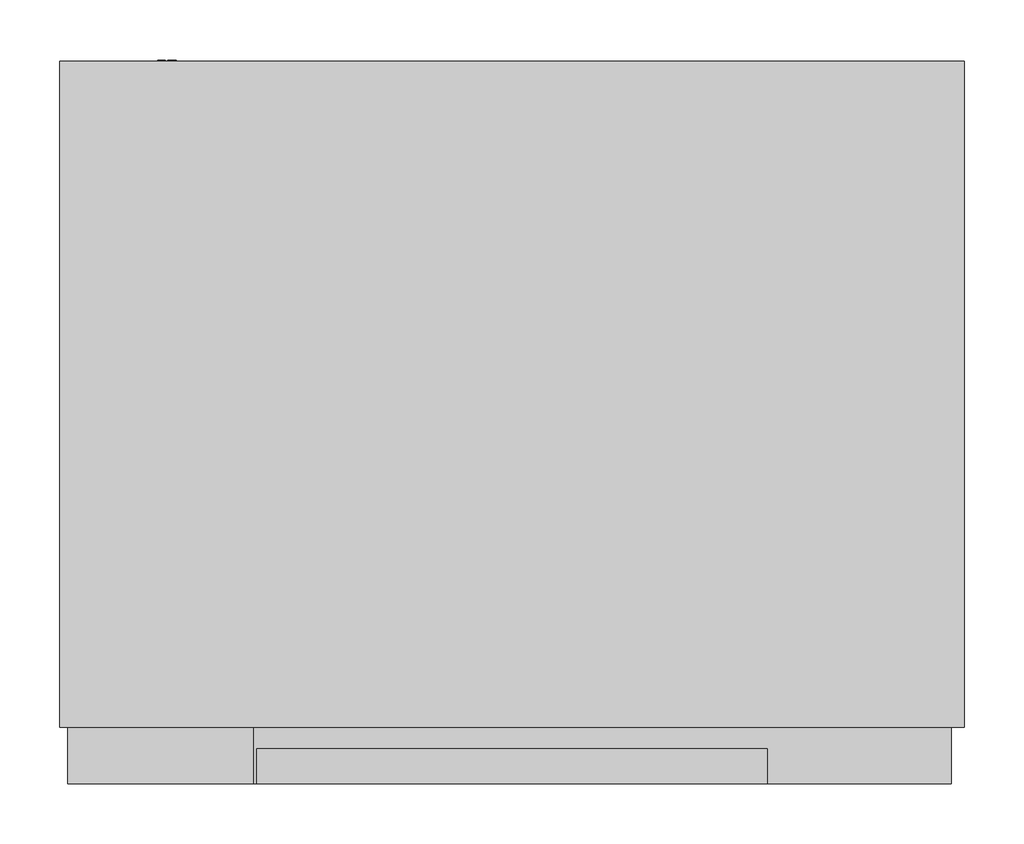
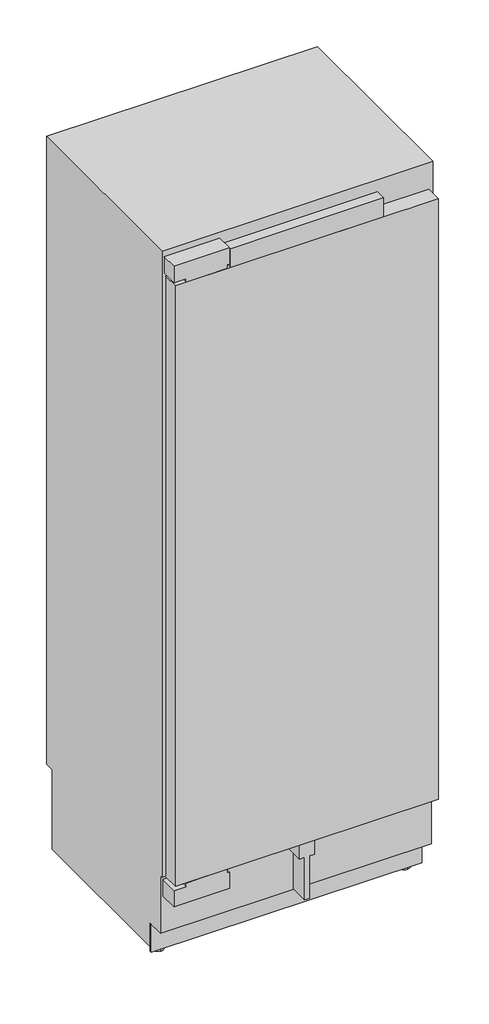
# Not in any storey: 1 proxy.
"""IFC4 building model written with IfcOpenShell, lengths in millimetres."""

import ifcopenshell
import ifcopenshell.guid

model = None  # the IFC model being written
_history = None  # IfcOwnerHistory: only IFC2X3 demands one
_inside = {}  # id of a spatial element -> (the spatial element, [elements in it])
_under = {}  # id of a project, library or spatial element -> (it, [spatial elements below it])
_declared = {}  # id of a project -> (the project, [libraries it declares])
_typed = {}  # id of a type object -> (the type object, [elements of that type])
_made_of = {}  # id of a material, layer set ... -> (it, [elements and type objects made of it])


def new_model(schema):
    """Start an empty IFC model of exactly this schema.

    Asked for "IFC4X3", IfcOpenShell would pick the latest addendum, in which some entities
    have other attributes; the version numbers below select the first issue.
    IFC2X3 requires an IfcOwnerHistory on every rooted entity: one is made here for all.
    """
    global model, _history
    if schema == "IFC4X3":
        model = ifcopenshell.file(schema_version=(4, 3, 0, 0))
    else:
        model = ifcopenshell.file(schema=schema)
    _inside.clear()
    _under.clear()
    _declared.clear()
    _typed.clear()
    _made_of.clear()
    _history = None
    if model.schema == "IFC2X3":
        org = make("IfcOrganization", Name="unknown")
        user = make(
            "IfcPersonAndOrganization",
            ThePerson=make("IfcPerson", FamilyName="unknown"),
            TheOrganization=org,
        )
        app = make(
            "IfcApplication",
            ApplicationDeveloper=org,
            Version="unknown",
            ApplicationFullName="unknown",
            ApplicationIdentifier="unknown",
        )
        _history = make(
            "IfcOwnerHistory",
            OwningUser=user,
            OwningApplication=app,
            ChangeAction="ADDED",
            CreationDate=0,
        )
    return model


def make(cls, **values):
    """One entity of the class cls with the attributes given. An attribute that is None is left unset."""
    return model.create_entity(
        cls, **{name: value for name, value in values.items() if value is not None}
    )


def rooted(cls, **values):
    """An entity with a GlobalId (a new one), such as an element, a storey or a relation."""
    return make(cls, GlobalId=ifcopenshell.guid.new(), OwnerHistory=_history, **values)


def si_unit(unit_type, name, prefix=None):
    """IfcSIUnit, for example si_unit("LENGTHUNIT", "METRE", prefix="MILLI")."""
    return make("IfcSIUnit", UnitType=unit_type, Prefix=prefix, Name=name)


def assignment(units):
    """IfcUnitAssignment: the units of a project."""
    return None if units is None else make("IfcUnitAssignment", Units=units)


def point(xyz):
    """IfcCartesianPoint."""
    return None if xyz is None else make("IfcCartesianPoint", Coordinates=xyz)


def direction(xyz):
    """IfcDirection."""
    return None if xyz is None else make("IfcDirection", DirectionRatios=xyz)


def frame(location, z_axis=None, x_axis=None):
    """IfcAxis2Placement3D, a coordinate frame: its origin and axes. An axis left out is left unset."""
    return make(
        "IfcAxis2Placement3D",
        Location=point(location),
        Axis=direction(z_axis),
        RefDirection=direction(x_axis),
    )


def frame_2d(location, x_axis=None):
    """IfcAxis2Placement2D, a coordinate frame in the plane: its origin and x axis."""
    return make(
        "IfcAxis2Placement2D", Location=point(location), RefDirection=direction(x_axis)
    )


def origin():
    """The frame at (0, 0, 0) with its axes left unset."""
    return frame((0.0, 0.0, 0.0))


def place(relative_to, where):
    """IfcLocalPlacement: puts the frame where relative to a parent placement (None: the world)."""
    return make(
        "IfcLocalPlacement", PlacementRelTo=relative_to, RelativePlacement=where
    )


def context(
    kind, dimensions, precision=None, world=None, true_north=None, identifier=None
):
    """IfcGeometricRepresentationContext, for example the 3D "Model" context."""
    return make(
        "IfcGeometricRepresentationContext",
        ContextIdentifier=identifier,
        ContextType=kind,
        CoordinateSpaceDimension=dimensions,
        Precision=precision,
        WorldCoordinateSystem=world,
        TrueNorth=true_north,
    )


def project(units=None, contexts=None):
    """IfcProject with its units and contexts."""
    return rooted(
        "IfcProject",
        Name="project",
        RepresentationContexts=contexts,
        UnitsInContext=assignment(units),
    )


def spatial(cls, under=None, at=None, **own):
    """A site, building, storey or space (cls), placed at a placement, below another one or the project."""
    s = rooted(cls, ObjectPlacement=at, **own)
    if under is not None:
        _under.setdefault(under.id(), (under, []))[1].append(s)
    return s


def polyline(points):
    """IfcPolyline through the points."""
    return make("IfcPolyline", Points=[point(p) for p in points])


def circle_curve(where, radius):
    """IfcCircle in the frame where."""
    return make("IfcCircle", Position=where, Radius=radius)


def trimmed(basis, trim1, trim2, sense, master):
    """IfcTrimmedCurve: the piece of a basis curve between two trims."""
    return make(
        "IfcTrimmedCurve",
        BasisCurve=basis,
        Trim1=trim1,
        Trim2=trim2,
        SenseAgreement=sense,
        MasterRepresentation=master,
    )


def segment(curve, same_sense, transition):
    """IfcCompositeCurveSegment."""
    return make(
        "IfcCompositeCurveSegment",
        Transition=transition,
        SameSense=same_sense,
        ParentCurve=curve,
    )


def composite_curve(segments, self_intersect=None):
    """IfcCompositeCurve: segments joined end to end."""
    return make("IfcCompositeCurve", Segments=segments, SelfIntersect=self_intersect)


def outline(outer, holes=None, kind="AREA"):
    """IfcArbitraryClosedProfileDef: a profile drawn as a closed curve; with holes, ...WithVoids."""
    if holes is None:
        return make("IfcArbitraryClosedProfileDef", ProfileType=kind, OuterCurve=outer)
    return make(
        "IfcArbitraryProfileDefWithVoids",
        ProfileType=kind,
        OuterCurve=outer,
        InnerCurves=holes,
    )


def extrude(swept, where, along, depth):
    """IfcExtrudedAreaSolid: the profile swept, set in the frame where, extruded along a direction by depth."""
    return make(
        "IfcExtrudedAreaSolid",
        SweptArea=swept,
        Position=where,
        ExtrudedDirection=direction(along),
        Depth=depth,
    )


def shape(context_of_items, identifier, shape_type, items):
    """IfcShapeRepresentation: the items that make up one representation, for example the "Body"."""
    return make(
        "IfcShapeRepresentation",
        ContextOfItems=context_of_items,
        RepresentationIdentifier=identifier,
        RepresentationType=shape_type,
        Items=items,
    )


def source(mapping_origin, context_of_items, identifier, shape_type, items):
    """IfcRepresentationMap: a shape defined once, which mapped items show again and again."""
    return make(
        "IfcRepresentationMap",
        MappingOrigin=mapping_origin,
        MappedRepresentation=shape(context_of_items, identifier, shape_type, items),
    )


def transform(
    local_origin,
    x_axis=None,
    y_axis=None,
    z_axis=None,
    scale=None,
    scale2=None,
    scale3=None,
    uniform=True,
):
    """IfcCartesianTransformationOperator3D, or its non-uniform kind. x_axis, y_axis, z_axis: its Axis1, 2, 3."""
    if uniform:
        return make(
            "IfcCartesianTransformationOperator3D",
            Axis1=direction(x_axis),
            Axis2=direction(y_axis),
            LocalOrigin=point(local_origin),
            Scale=scale,
            Axis3=direction(z_axis),
        )
    return make(
        "IfcCartesianTransformationOperator3DnonUniform",
        Axis1=direction(x_axis),
        Axis2=direction(y_axis),
        LocalOrigin=point(local_origin),
        Scale=scale,
        Axis3=direction(z_axis),
        Scale2=scale2,
        Scale3=scale3,
    )


def mapped(mapping_source, mapping_target):
    """IfcMappedItem: shows the shape of a source again, moved by a transform."""
    return make(
        "IfcMappedItem", MappingSource=mapping_source, MappingTarget=mapping_target
    )


def made_of(thing, what):
    """Note that an element or type object is made of a material, layer set ...; save() writes the relation."""
    if what is not None:
        _made_of.setdefault(what.id(), (what, []))[1].append(thing)
    return thing


def element(
    cls,
    number,
    at=None,
    inside=None,
    cuts=None,
    type_object=None,
    material=None,
    context=None,
    identifier="Body",
    shape_type=None,
    held_by="IfcProductDefinitionShape",
    body=None,
    shapes=None,
    **own,
):
    """One element of the class cls, such as IfcWall. Its Tag is "e" and its number.

    at: its placement. inside: the storey or other place that contains it. cuts: it is an
    opening in that element (IfcRelVoidsElement). A single representation is given by context,
    identifier, shape_type and body (its items); several are given by shapes. held_by: the class
    of the entity that holds the representations. save() writes the other relations.
    """
    e = rooted(cls, Tag="e%d" % number, ObjectPlacement=at, **own)
    if body is not None:
        shapes = [shape(context, identifier, shape_type, body)]
    if shapes is not None:
        e.Representation = make(held_by, Representations=shapes)
    if inside is not None:
        _inside.setdefault(inside.id(), (inside, []))[1].append(e)
    if cuts is not None:
        rooted(
            "IfcRelVoidsElement", RelatingBuildingElement=cuts, RelatedOpeningElement=e
        )
    if type_object is not None:
        _typed.setdefault(type_object.id(), (type_object, []))[1].append(e)
    return made_of(e, material)


def aggregate(whole, parts):
    """IfcRelAggregates: a whole, such as a stair, and the parts it consists of."""
    return rooted("IfcRelAggregates", RelatingObject=whole, RelatedObjects=parts)


def save(model, path):
    """Write the relations noted so far, then the file.

    IfcRelAggregates (storeys below a building ...), IfcRelContainedInSpatialStructure (elements
    in a storey), IfcRelDefinesByType, IfcRelAssociatesMaterial and IfcRelDeclares: one each for
    every whole, place, type object, material and project.
    """
    for whole, parts in _under.values():
        aggregate(whole, parts)
    for where, things in _inside.values():
        rooted(
            "IfcRelContainedInSpatialStructure",
            RelatedElements=things,
            RelatingStructure=where,
        )
    for kind, things in _typed.values():
        rooted("IfcRelDefinesByType", RelatedObjects=things, RelatingType=kind)
    for what, things in _made_of.values():
        rooted("IfcRelAssociatesMaterial", RelatedObjects=things, RelatingMaterial=what)
    for by, libraries in _declared.values():
        rooted("IfcRelDeclares", RelatingContext=by, RelatedDefinitions=libraries)
    model.write(path)


def plane_surface(at):
    """IfcPlane: the flat surface through the origin of the frame at, square to its z axis."""
    return make("IfcPlane", Position=at)


def cylinder_surface(at, radius):
    """IfcCylindricalSurface: all points at the distance radius from the z axis of the frame at."""
    return make("IfcCylindricalSurface", Position=at, Radius=radius)


def advanced_brep(points, edges, surfaces, faces):
    """IfcAdvancedBrep: a solid bounded by faces that lie on surfaces and meet in shared edges.

    An edge is (start, end): straight between two places in points (the first is 0);
    or (start, end, curve); or (start, end, curve, False) where it runs against its curve.
    A face is (place in surfaces, loops), or (place, loops, False) where it looks against
    its surface's normal. A loop lists edges by number (the first is 1), with a minus sign
    where the edge is run from its end to its start. The first loop is the outer one.
    """
    corners = [point(p) for p in points]
    vertices = [make("IfcVertexPoint", VertexGeometry=c) for c in corners]
    made = []
    for start, end, *more in edges:
        made.append(
            make(
                "IfcEdgeCurve",
                EdgeStart=vertices[start],
                EdgeEnd=vertices[end],
                EdgeGeometry=more[0] if more else make("IfcPolyline", Points=[corners[start], corners[end]]),
                SameSense=more[1] if len(more) > 1 else True,
            )
        )
    hull = []
    for where, loops, *sense in faces:
        bounds = []
        for j, loop in enumerate(loops):
            ring = [make("IfcOrientedEdge", EdgeElement=made[abs(k) - 1], Orientation=k > 0) for k in loop]
            bounds.append(
                make(
                    "IfcFaceOuterBound" if j == 0 else "IfcFaceBound",
                    Bound=make("IfcEdgeLoop", EdgeList=ring),
                    Orientation=True,
                )
            )
        hull.append(make("IfcAdvancedFace", Bounds=bounds, FaceSurface=surfaces[where], SameSense=sense[0] if sense else True))
    return make("IfcAdvancedBrep", Outer=make("IfcClosedShell", CfsFaces=hull))


def specialty_equipment_694db8ee(model_context):
    return source(origin(), model_context, "Body", "SolidModel", [
        extrude(outline(polyline([(-367.0, 47.0), (367.0, 47.0), (367.0, 0.0), (-367.0, 0.0), (-367.0, 47.0)])), frame((0.0, 0.0, 265.0), z_axis=(0.0, 0.0, 1.0), x_axis=(1.0, 0.0, 0.0)), (0.0, 0.0, 1.0), 1771.0),
        extrude(outline(polyline([(-213.5, 29.0), (213.5, 29.0), (213.5, 0.0), (-213.5, 0.0), (-213.5, 29.0)])), frame((0.0, 0.0, 2036.0), z_axis=(0.0, 0.0, 1.0), x_axis=(1.0, 0.0, 0.0)), (0.0, 0.0, 1.0), 56.0),
        extrude(outline(polyline([(265.0, 21.0), (265.0, 0.0), (265.0, -21.0), (224.0, -21.0), (224.0, -6.5), (99.0, -6.5), (99.0, 0.0), (99.0, 6.5), (224.0, 6.5), (224.0, 21.0), (265.0, 21.0)])), frame((0.0, 0.0, 0.0), z_axis=(0.0, 1.0, 0.0), x_axis=(0.0, 0.0, 1.0)), (0.0, 0.0, 1.0), 54.0),
        extrude(outline(polyline([(87.0, 1998.0), (544.0, 1998.0), (544.0, 1791.0), (475.0, 1791.0), (447.0, 1868.0), (201.3701279, 1868.0), (156.3150905, 1940.0880598), (87.0, 1949.0), (87.0, 1998.0)])), frame((-332.0, 0.0, 0.0), z_axis=(1.0, 0.0, 0.0), x_axis=(0.0, 1.0, 0.0)), (0.0, 0.0, 1.0), 664.0),
        extrude(outline(polyline([(196.9886114, 1875.0), (195.809433, 1875.0), (158.6921935, 1934.4), (159.8713719, 1934.4), (196.9886114, 1875.0)])), frame((-69.0, 0.0, 0.0), z_axis=(1.0, 0.0, 0.0), x_axis=(0.0, 1.0, 0.0)), (0.0, 0.0, 1.0), 138.0),
        extrude(outline(polyline([(2095.0, -371.5), (2047.0, -371.5), (2047.0, -337.5), (2036.5, -337.5), (2036.5, -222.5), (2047.0, -222.5), (2047.0, -216.5), (2095.0, -216.5), (2095.0, -371.5)])), frame((0.0, 0.0, 0.0), z_axis=(0.0, 1.0, 0.0), x_axis=(0.0, 0.0, 1.0)), (0.0, 0.0, 1.0), 47.0),
        extrude(outline(polyline([(254.0, -371.5), (206.0, -371.5), (206.0, -216.5), (254.0, -216.5), (254.0, -222.5), (264.0, -222.5), (264.0, -337.5), (254.0, -337.5), (254.0, -371.5)])), frame((0.0, 0.0, 0.0), z_axis=(0.0, 1.0, 0.0), x_axis=(0.0, 0.0, 1.0)), (0.0, 0.0, 1.0), 54.0),
        extrude(outline(polyline([(99.0373308, -287.7645771), (97.7615342, -287.7645771), (97.7615342, -281.8195541), (94.7968516, -281.8195541), (94.7968516, -287.469579), (93.5246295, -287.469579), (93.5246295, -281.8415693), (90.2570046, -281.8415693), (90.2570046, -287.9619689), (88.9546219, -287.9619689), (88.9546219, -280.5443524), (99.0373308, -280.5443524), (99.0373308, -287.7645771)])), frame((0.0, 604.0, 0.0), z_axis=(0.0, 1.0, 0.0), x_axis=(0.0, 0.0, 1.0)), (0.0, 0.0, 1.0), 1.0),
        extrude(outline(polyline([(99.0458, -291.0619704), (90.2663944, -291.0619704), (90.2663944, -296.1145879), (89.0134802, -296.1145879), (89.0134802, -289.8423809), (99.0458, -289.8423809), (99.0458, -291.0619704)])), frame((0.0, 604.0, 0.0), z_axis=(0.0, 1.0, 0.0), x_axis=(0.0, 0.0, 1.0)), (0.0, 0.0, 1.0), 1.0),
        extrude(outline(composite_curve([segment(trimmed(circle_curve(frame_2d((94.0, -288.0)), 7.5), [point((86.5, -288.0))], [point((101.5, -288.0))], False, "CARTESIAN"), True, "CONTINUOUS"), segment(trimmed(circle_curve(frame_2d((94.0, -288.0)), 7.5), [point((101.5, -288.0))], [point((86.5, -288.0))], False, "CARTESIAN"), True, "CONTINUOUS")], self_intersect=False)), frame((0.0, 577.0, 0.0), z_axis=(0.0, 1.0, 0.0), x_axis=(0.0, 0.0, 1.0)), (0.0, 0.0, 1.0), 27.0),
        extrude(outline(polyline([(-378.0, 104.0), (378.0, 104.0), (378.0, 99.0), (-378.0, 99.0), (-378.0, 104.0)])), frame((0.0, 0.0, 14.0), z_axis=(0.0, 0.0, 1.0), x_axis=(1.0, 0.0, 0.0)), (0.0, 0.0, 1.0), 83.0),
        advanced_brep(
        [(-344.0, 139.0, 0.0), (-344.0, 109.0, 0.0), (-344.0, 139.0, 7.0), (-344.0, 109.0, 7.0), (-344.0, 128.7, 7.0), (-344.0, 119.3, 7.0), (-344.0, 128.7, 28.0), (-344.0, 119.3, 28.0)],
        [
            (0, 1, circle_curve(frame((-344.0, 124.0, 0.0), z_axis=(0.0, 0.0, -1.0), x_axis=(1.0, 0.0, 0.0)), 15.0)),
            (1, 0, circle_curve(frame((-344.0, 124.0, 0.0), z_axis=(0.0, 0.0, -1.0), x_axis=(1.0, 0.0, 0.0)), 15.0)),
            (2, 3, circle_curve(frame((-344.0, 124.0, 7.0), z_axis=(0.0, 0.0, 1.0), x_axis=(1.0, 0.0, 0.0)), 15.0)),
            (3, 2, circle_curve(frame((-344.0, 124.0, 7.0), z_axis=(0.0, 0.0, 1.0), x_axis=(1.0, 0.0, 0.0)), 15.0)),
            (4, 5, circle_curve(frame((-344.0, 124.0, 7.0), z_axis=(0.0, 0.0, -1.0), x_axis=(0.0, -1.0, 0.0)), 4.7)),
            (5, 4, circle_curve(frame((-344.0, 124.0, 7.0), z_axis=(0.0, 0.0, -1.0), x_axis=(0.0, -1.0, 0.0)), 4.7)),
            (0, 2),
            (3, 1),
            (6, 7, circle_curve(frame((-344.0, 124.0, 28.0), z_axis=(0.0, 0.0, 1.0), x_axis=(0.0, -1.0, 0.0)), 4.7)),
            (7, 6, circle_curve(frame((-344.0, 124.0, 28.0), z_axis=(0.0, 0.0, 1.0), x_axis=(0.0, -1.0, 0.0)), 4.7)),
            (7, 5),
            (4, 6),
        ],
        [
            plane_surface(frame((-329.0, 124.0, 0.0), z_axis=(0.0, 0.0, -1.0), x_axis=(0.0, -1.0, 0.0))),
            plane_surface(frame((-329.0, 124.0, 7.0), z_axis=(0.0, 0.0, 1.0), x_axis=(0.0, 1.0, 0.0))),
            cylinder_surface(frame((-344.0, 124.0, 7.0), z_axis=(0.0, 0.0, -1.0), x_axis=(1.0, 0.0, 0.0)), 15.0),
            plane_surface(frame((-344.0, 119.3, 28.0), z_axis=(0.0, 0.0, 1.0), x_axis=(1.0, 0.0, 0.0))),
            cylinder_surface(frame((-344.0, 124.0, 28.0), z_axis=(0.0, 0.0, -1.0), x_axis=(0.0, -1.0, 0.0)), 4.7),
        ],
        [
            (0, [[1, 2]]),
            (1, [[3, 4], [5, 6]]),
            (2, [[-1, 7, -4, 8]]),
            (2, [[-2, -8, -3, -7]]),
            (3, [[9, 10]]),
            (4, [[-10, 11, -5, 12]]),
            (4, [[-9, -12, -6, -11]]),
        ],
    ),
        advanced_brep(
        [(344.0, 139.0, 0.0), (344.0, 109.0, 0.0), (344.0, 139.0, 7.0), (344.0, 109.0, 7.0), (344.0, 128.7, 7.0), (344.0, 119.3, 7.0), (344.0, 128.7, 28.0), (344.0, 119.3, 28.0)],
        [
            (0, 1, circle_curve(frame((344.0, 124.0, 0.0), z_axis=(0.0, 0.0, -1.0), x_axis=(1.0, 0.0, 0.0)), 15.0)),
            (1, 0, circle_curve(frame((344.0, 124.0, 0.0), z_axis=(0.0, 0.0, -1.0), x_axis=(1.0, 0.0, 0.0)), 15.0)),
            (2, 3, circle_curve(frame((344.0, 124.0, 7.0), z_axis=(0.0, 0.0, 1.0), x_axis=(1.0, 0.0, 0.0)), 15.0)),
            (3, 2, circle_curve(frame((344.0, 124.0, 7.0), z_axis=(0.0, 0.0, 1.0), x_axis=(1.0, 0.0, 0.0)), 15.0)),
            (4, 5, circle_curve(frame((344.0, 124.0, 7.0), z_axis=(0.0, 0.0, -1.0), x_axis=(0.0, -1.0, 0.0)), 4.7)),
            (5, 4, circle_curve(frame((344.0, 124.0, 7.0), z_axis=(0.0, 0.0, -1.0), x_axis=(0.0, -1.0, 0.0)), 4.7)),
            (0, 2),
            (3, 1),
            (6, 7, circle_curve(frame((344.0, 124.0, 28.0), z_axis=(0.0, 0.0, 1.0), x_axis=(0.0, -1.0, 0.0)), 4.7)),
            (7, 6, circle_curve(frame((344.0, 124.0, 28.0), z_axis=(0.0, 0.0, 1.0), x_axis=(0.0, -1.0, 0.0)), 4.7)),
            (7, 5),
            (4, 6),
        ],
        [
            plane_surface(frame((-329.0, 124.0, 0.0), z_axis=(0.0, 0.0, -1.0), x_axis=(0.0, -1.0, 0.0))),
            plane_surface(frame((-329.0, 124.0, 7.0), z_axis=(0.0, 0.0, 1.0), x_axis=(0.0, 1.0, 0.0))),
            cylinder_surface(frame((344.0, 124.0, 7.0), z_axis=(0.0, 0.0, -1.0), x_axis=(1.0, 0.0, 0.0)), 15.0),
            plane_surface(frame((-344.0, 119.3, 28.0), z_axis=(0.0, 0.0, 1.0), x_axis=(1.0, 0.0, 0.0))),
            cylinder_surface(frame((344.0, 124.0, 28.0), z_axis=(0.0, 0.0, -1.0), x_axis=(0.0, -1.0, 0.0)), 4.7),
        ],
        [
            (0, [[1, 2]]),
            (1, [[3, 4], [5, 6]]),
            (2, [[-1, 7, -4, 8]]),
            (2, [[-2, -8, -3, -7]]),
            (3, [[9, 10]]),
            (4, [[-10, 11, -5, 12]]),
            (4, [[-9, -12, -6, -11]]),
        ],
    ),
        advanced_brep(
        [(378.0, 47.0, 2114.0), (378.0, 47.0, 267.0), (378.0, 54.0, 267.0), (378.0, 54.0, 97.0), (378.0, 104.0, 97.0), (378.0, 104.0, 28.0), (378.0, 577.0, 28.0), (378.0, 577.0, 263.0), (378.0, 604.0, 263.0), (378.0, 604.0, 2114.0), (-378.0, 47.0, 2114.0), (-378.0, 604.0, 2114.0), (-378.0, 604.0, 263.0), (-378.0, 577.0, 263.0), (-378.0, 577.0, 28.0), (-378.0, 104.0, 28.0), (-378.0, 104.0, 97.0), (-378.0, 54.0, 97.0), (-378.0, 54.0, 267.0), (-378.0, 47.0, 267.0), (318.0, 577.0, 28.0), (318.0, 577.0, 14.0), (-318.0, 577.0, 14.0), (-318.0, 577.0, 28.0), (318.0, 104.0, 14.0), (-318.0, 104.0, 14.0), (-318.0, 104.0, 28.0), (318.0, 104.0, 28.0), (332.0, 47.0, 1998.0), (332.0, 47.0, 343.0), (-332.0, 47.0, 343.0), (-332.0, 47.0, 1998.0), (332.0, 544.0, 1998.0), (-332.0, 544.0, 1998.0), (-332.0, 544.0, 343.0), (332.0, 544.0, 343.0), (-336.5, 202.8193473, 28.0), (-355.5, 202.8193473, 28.0), (-355.5, 153.1806527, 28.0), (-336.5, 153.1806527, 28.0), (-356.0, 525.8193473, 28.0), (-356.0, 476.1806527, 28.0), (-340.0, 476.1806527, 28.0), (-340.0, 525.8193473, 28.0), (355.5, 153.1806527, 28.0), (355.5, 202.8193473, 28.0), (336.5, 202.8193473, 28.0), (336.5, 153.1806527, 28.0), (340.0, 525.8193473, 28.0), (340.0, 476.1806527, 28.0), (356.0, 476.1806527, 28.0), (356.0, 525.8193473, 28.0), (-336.5, 203.0, 25.0), (-336.5, 153.0, 25.0), (-355.5, 153.0, 25.0), (-355.5, 203.0, 25.0), (-336.5, 178.0, 25.0), (-355.5, 178.0, 25.0), (355.5, 178.0, 25.0), (355.5, 153.0, 25.0), (355.5, 203.0, 25.0), (336.5, 203.0, 25.0), (336.5, 153.0, 25.0), (336.5, 178.0, 25.0), (-356.0, 526.0, 25.0), (-356.0, 476.0, 25.0), (-356.0, 501.0, 25.0), (-340.0, 526.0, 25.0), (-340.0, 476.0, 25.0), (-340.0, 501.0, 25.0), (340.0, 526.0, 25.0), (340.0, 476.0, 25.0), (340.0, 501.0, 25.0), (356.0, 526.0, 25.0), (356.0, 476.0, 25.0), (356.0, 501.0, 25.0)],
        [
            (0, 1),
            (1, 2),
            (2, 3),
            (3, 4),
            (4, 5),
            (5, 6),
            (6, 7),
            (7, 8),
            (8, 9),
            (9, 0),
            (10, 11),
            (11, 12),
            (12, 13),
            (13, 14),
            (14, 15),
            (15, 16),
            (16, 17),
            (17, 18),
            (18, 19),
            (19, 10),
            (9, 11),
            (10, 0),
            (8, 12),
            (7, 13),
            (6, 20),
            (20, 21),
            (21, 22),
            (22, 23),
            (23, 14),
            (21, 24),
            (24, 25),
            (25, 22),
            (4, 16),
            (15, 26),
            (26, 25),
            (24, 27),
            (27, 5),
            (3, 17),
            (2, 18),
            (1, 19),
            (28, 29),
            (29, 30),
            (30, 31),
            (31, 28),
            (32, 33),
            (33, 34),
            (34, 35),
            (35, 32),
            (35, 29),
            (28, 32),
            (34, 30),
            (33, 31),
            (23, 26),
            (36, 37),
            (37, 38),
            (38, 39),
            (39, 36),
            (40, 41),
            (41, 42),
            (42, 43),
            (43, 40),
            (27, 20),
            (44, 45),
            (45, 46),
            (46, 47),
            (47, 44),
            (48, 49),
            (49, 50),
            (50, 51),
            (51, 48),
            (52, 53, circle_curve(frame((-336.5, 178.0, 25.0), z_axis=(-1.0, 0.0, 0.0), x_axis=(0.0, -1.0, 0.0)), 25.0)),
            (53, 54),
            (54, 55, circle_curve(frame((-355.5, 178.0, 25.0), z_axis=(1.0, 0.0, 0.0), x_axis=(0.0, -1.0, 0.0)), 25.0)),
            (55, 52),
            (53, 39, circle_curve(frame((-336.5, 178.0, 25.0), z_axis=(-1.0, 0.0, 0.0), x_axis=(0.0, -1.0, 0.0)), 25.0)),
            (38, 54, circle_curve(frame((-355.5, 178.0, 25.0), z_axis=(1.0, 0.0, 0.0), x_axis=(0.0, -1.0, 0.0)), 25.0)),
            (55, 37, circle_curve(frame((-355.5, 178.0, 25.0), z_axis=(1.0, 0.0, 0.0), x_axis=(0.0, -1.0, 0.0)), 25.0)),
            (36, 52, circle_curve(frame((-336.5, 178.0, 25.0), z_axis=(-1.0, 0.0, 0.0), x_axis=(0.0, -1.0, 0.0)), 25.0)),
            (52, 56),
            (56, 53),
            (54, 57),
            (57, 55),
            (58, 59),
            (59, 60, circle_curve(frame((355.5, 178.0, 25.0), z_axis=(1.0, 0.0, 0.0), x_axis=(0.0, -1.0, 0.0)), 25.0)),
            (60, 58),
            (60, 45, circle_curve(frame((355.5, 178.0, 25.0), z_axis=(1.0, 0.0, 0.0), x_axis=(0.0, -1.0, 0.0)), 25.0)),
            (44, 59, circle_curve(frame((355.5, 178.0, 25.0), z_axis=(1.0, 0.0, 0.0), x_axis=(0.0, -1.0, 0.0)), 25.0)),
            (61, 62, circle_curve(frame((336.5, 178.0, 25.0), z_axis=(-1.0, 0.0, 0.0), x_axis=(0.0, -1.0, 0.0)), 25.0)),
            (62, 63),
            (63, 61),
            (62, 47, circle_curve(frame((336.5, 178.0, 25.0), z_axis=(-1.0, 0.0, 0.0), x_axis=(0.0, -1.0, 0.0)), 25.0)),
            (46, 61, circle_curve(frame((336.5, 178.0, 25.0), z_axis=(-1.0, 0.0, 0.0), x_axis=(0.0, -1.0, 0.0)), 25.0)),
            (64, 65, circle_curve(frame((-356.0, 501.0, 25.0), z_axis=(-1.0, 0.0, 0.0), x_axis=(0.0, -1.0, 0.0)), 25.0)),
            (65, 66),
            (66, 64),
            (65, 41, circle_curve(frame((-356.0, 501.0, 25.0), z_axis=(-1.0, 0.0, 0.0), x_axis=(0.0, -1.0, 0.0)), 25.0)),
            (40, 64, circle_curve(frame((-356.0, 501.0, 25.0), z_axis=(-1.0, 0.0, 0.0), x_axis=(0.0, -1.0, 0.0)), 25.0)),
            (64, 67),
            (67, 68, circle_curve(frame((-340.0, 501.0, 25.0), z_axis=(-1.0, 0.0, 0.0), x_axis=(0.0, -1.0, 0.0)), 25.0)),
            (68, 65),
            (43, 67, circle_curve(frame((-340.0, 501.0, 25.0), z_axis=(-1.0, 0.0, 0.0), x_axis=(0.0, -1.0, 0.0)), 25.0)),
            (68, 42, circle_curve(frame((-340.0, 501.0, 25.0), z_axis=(-1.0, 0.0, 0.0), x_axis=(0.0, -1.0, 0.0)), 25.0)),
            (67, 69),
            (69, 68),
            (70, 71, circle_curve(frame((340.0, 501.0, 25.0), z_axis=(-1.0, 0.0, 0.0), x_axis=(0.0, -1.0, 0.0)), 25.0)),
            (71, 72),
            (72, 70),
            (71, 49, circle_curve(frame((340.0, 501.0, 25.0), z_axis=(-1.0, 0.0, 0.0), x_axis=(0.0, -1.0, 0.0)), 25.0)),
            (48, 70, circle_curve(frame((340.0, 501.0, 25.0), z_axis=(-1.0, 0.0, 0.0), x_axis=(0.0, -1.0, 0.0)), 25.0)),
            (70, 73),
            (73, 74, circle_curve(frame((356.0, 501.0, 25.0), z_axis=(-1.0, 0.0, 0.0), x_axis=(0.0, -1.0, 0.0)), 25.0)),
            (74, 71),
            (51, 73, circle_curve(frame((356.0, 501.0, 25.0), z_axis=(-1.0, 0.0, 0.0), x_axis=(0.0, -1.0, 0.0)), 25.0)),
            (74, 50, circle_curve(frame((356.0, 501.0, 25.0), z_axis=(-1.0, 0.0, 0.0), x_axis=(0.0, -1.0, 0.0)), 25.0)),
            (73, 75),
            (75, 74),
            (59, 62),
            (61, 60),
        ],
        [
            plane_surface(frame((378.0, 604.0, 2114.0), z_axis=(1.0, 0.0, 0.0), x_axis=(0.0, -1.0, 0.0))),
            plane_surface(frame((-378.0, 604.0, 2114.0), z_axis=(-1.0, 0.0, 0.0), x_axis=(0.0, 1.0, 0.0))),
            plane_surface(frame((-378.0, 47.0, 2114.0), z_axis=(0.0, 0.0, 1.0), x_axis=(1.0, 0.0, 0.0))),
            plane_surface(frame((-378.0, 604.0, 2114.0), z_axis=(0.0, 1.0, 0.0), x_axis=(1.0, 0.0, 0.0))),
            plane_surface(frame((-378.0, 604.0, 263.0), z_axis=(0.0, 0.0, -1.0), x_axis=(1.0, 0.0, 0.0))),
            plane_surface(frame((-378.0, 577.0, 263.0), z_axis=(0.0, 1.0, 0.0), x_axis=(1.0, 0.0, 0.0))),
            plane_surface(frame((-378.0, 577.0, 14.0), z_axis=(0.0, 0.0, -1.0), x_axis=(1.0, 0.0, 0.0))),
            plane_surface(frame((-378.0, 104.0, 14.0), z_axis=(0.0, -1.0, 0.0), x_axis=(1.0, 0.0, 0.0))),
            plane_surface(frame((-378.0, 104.0, 97.0), z_axis=(0.0, 0.0, -1.0), x_axis=(1.0, 0.0, 0.0))),
            plane_surface(frame((-378.0, 54.0, 97.0), z_axis=(0.0, -1.0, 0.0), x_axis=(1.0, 0.0, 0.0))),
            plane_surface(frame((-378.0, 54.0, 267.0), z_axis=(0.0, 0.0, -1.0), x_axis=(1.0, 0.0, 0.0))),
            plane_surface(frame((-378.0, 47.0, 267.0), z_axis=(0.0, -1.0, 0.0), x_axis=(1.0, 0.0, 0.0))),
            plane_surface(frame((332.0, 544.0, 1998.0), z_axis=(0.0, -1.0, 0.0), x_axis=(0.0, 0.0, -1.0))),
            plane_surface(frame((332.0, 544.0, 1998.0), z_axis=(-1.0, 0.0, 0.0), x_axis=(0.0, -1.0, 0.0))),
            plane_surface(frame((332.0, 544.0, 343.0), z_axis=(0.0, 0.0, 1.0), x_axis=(0.0, -1.0, 0.0))),
            plane_surface(frame((-332.0, 544.0, 343.0), z_axis=(1.0, 0.0, 0.0), x_axis=(0.0, -1.0, 0.0))),
            plane_surface(frame((-332.0, 544.0, 1998.0), z_axis=(0.0, 0.0, -1.0), x_axis=(0.0, -1.0, 0.0))),
            plane_surface(frame((-378.0, 604.0, 28.0), z_axis=(0.0, 0.0, -1.0), x_axis=(-1.0, 0.0, 0.0))),
            plane_surface(frame((-318.0, 104.0, 28.0), z_axis=(-1.0, 0.0, 0.0), x_axis=(0.0, 0.0, -1.0))),
            plane_surface(frame((318.0, 604.0, 28.0), z_axis=(1.0, 0.0, 0.0), x_axis=(0.0, 0.0, -1.0))),
            cylinder_surface(frame((-470.6988927, 178.0, 25.0), z_axis=(1.0, 0.0, 0.0), x_axis=(0.0, -1.0, 0.0)), 25.0),
            plane_surface(frame((-336.5, 178.0, 25.0), z_axis=(1.0, 0.0, 0.0), x_axis=(0.0, -1.0, 0.0))),
            plane_surface(frame((-355.5, 178.0, 25.0), z_axis=(-1.0, 0.0, 0.0), x_axis=(0.0, -1.0, 0.0))),
            plane_surface(frame((355.5, 178.0, 25.0), z_axis=(1.0, 0.0, 0.0), x_axis=(0.0, -1.0, 0.0))),
            plane_surface(frame((336.5, 178.0, 25.0), z_axis=(-1.0, 0.0, 0.0), x_axis=(0.0, -1.0, 0.0))),
            plane_surface(frame((-356.0, 501.0, 25.0), z_axis=(-1.0, 0.0, 0.0), x_axis=(0.0, -1.0, 0.0))),
            cylinder_surface(frame((-470.6988927, 501.0, 25.0), z_axis=(1.0, 0.0, 0.0), x_axis=(0.0, -1.0, 0.0)), 25.0),
            plane_surface(frame((-340.0, 501.0, 25.0), z_axis=(1.0, 0.0, 0.0), x_axis=(0.0, -1.0, 0.0))),
            plane_surface(frame((340.0, 501.0, 25.0), z_axis=(-1.0, 0.0, 0.0), x_axis=(0.0, -1.0, 0.0))),
            plane_surface(frame((356.0, 501.0, 25.0), z_axis=(1.0, 0.0, 0.0), x_axis=(0.0, -1.0, 0.0))),
        ],
        [
            (0, [[1, 2, 3, 4, 5, 6, 7, 8, 9, 10]]),
            (1, [[11, 12, 13, 14, 15, 16, 17, 18, 19, 20]]),
            (2, [[-10, 21, -11, 22]]),
            (3, [[-9, 23, -12, -21]]),
            (4, [[-8, 24, -13, -23]]),
            (5, [[-24, -7, 25, 26, 27, 28, 29, -14]]),
            (6, [[-27, 30, 31, 32]]),
            (7, [[33, -16, 34, 35, -31, 36, 37, -5]]),
            (8, [[-4, 38, -17, -33]]),
            (9, [[-3, 39, -18, -38]]),
            (10, [[-2, 40, -19, -39]]),
            (11, [[-1, -22, -20, -40], [41, 42, 43, 44]]),
            (12, [[45, 46, 47, 48]]),
            (13, [[-48, 49, -41, 50]]),
            (14, [[-47, 51, -42, -49]]),
            (15, [[-46, 52, -43, -51]]),
            (16, [[-45, -50, -44, -52]]),
            (17, [[53, -34, -15, -29], [54, 55, 56, 57], [58, 59, 60, 61]]),
            (17, [[62, -25, -6, -37], [63, 64, 65, 66], [67, 68, 69, 70]]),
            (18, [[-53, -28, -32, -35]]),
            (19, [[-62, -36, -30, -26]]),
            (20, [[71, 72, 73, 74]]),
            (20, [[-72, 75, -56, 76]]),
            (20, [[-74, 77, -54, 78]]),
            (21, [[-71, 79, 80]]),
            (21, [[-80, -79, -78, -57, -75]]),
            (22, [[-73, 81, 82]]),
            (22, [[-81, -76, -55, -77, -82]]),
            (23, [[83, 84, 85]]),
            (23, [[-83, -85, 86, -63, 87]]),
            (24, [[88, 89, 90]]),
            (24, [[-89, 91, -65, 92, -90]]),
            (25, [[93, 94, 95]]),
            (25, [[-94, 96, -58, 97, -95]]),
            (26, [[-93, 98, 99, 100]]),
            (26, [[-98, -97, -61, 101]]),
            (26, [[-100, 102, -59, -96]]),
            (27, [[-99, 103, 104]]),
            (27, [[-104, -103, -101, -60, -102]]),
            (28, [[105, 106, 107]]),
            (28, [[-106, 108, -67, 109, -107]]),
            (26, [[-105, 110, 111, 112]]),
            (26, [[-110, -109, -70, 113]]),
            (26, [[-112, 114, -68, -108]]),
            (29, [[-111, 115, 116]]),
            (29, [[-116, -115, -113, -69, -114]]),
            (20, [[-84, 117, -88, 118]]),
            (20, [[-117, -87, -66, -91]]),
            (20, [[-118, -92, -64, -86]]),
        ],
    ),
    ])


model = new_model("IFC4")

# Units and contexts
model_context = context("Model", 3, world=origin())
ifc_project = project(units=[si_unit("LENGTHUNIT", "METRE", prefix="MILLI")], contexts=[model_context])

# Site, building
site = spatial("IfcSite", under=ifc_project)
building = spatial("IfcBuilding", under=site)

# Proxy
placement = place(None, origin())
specialty_equipment_shape = specialty_equipment_694db8ee(model_context)
element("IfcBuildingElementProxy", 1, Name="11502640_USA_K2812Vi : 36281201_USA_11502640_K2812Vi", ObjectType="11502640_USA_K2812Vi : 36281201_USA_11502640_K2812Vi", at=placement, inside=building, context=model_context, shape_type="MappedRepresentation", body=[
    mapped(specialty_equipment_shape, transform((0.0, 0.0, 0.0), x_axis=(1.0, 0.0, 0.0), y_axis=(0.0, 1.0, 0.0), z_axis=(0.0, 0.0, 1.0))),
])

save(model, "model.ifc")
